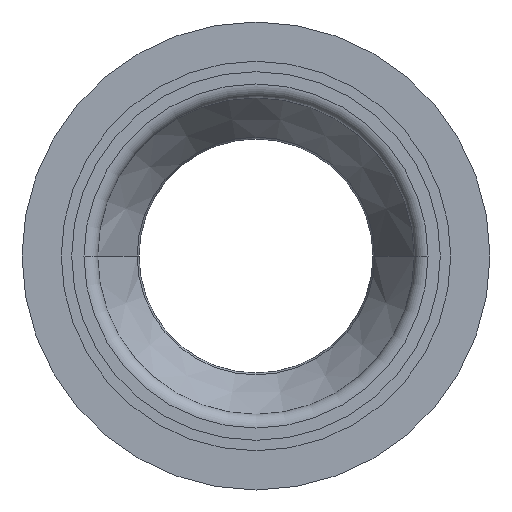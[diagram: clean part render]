
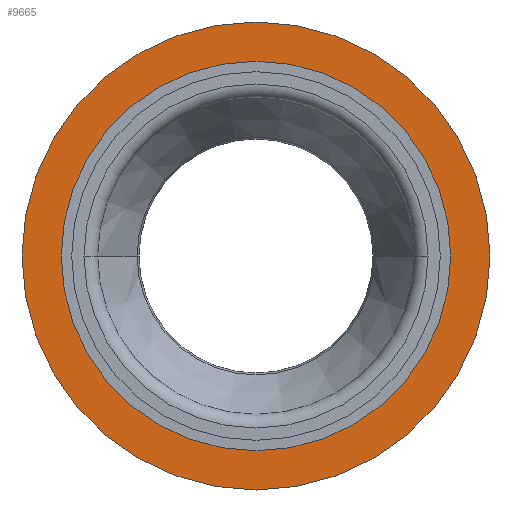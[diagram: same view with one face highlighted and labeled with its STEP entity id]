
A CAD part, front view. The second image highlights one B-rep face of the part: STEP entity #9665.
In plain terms, the highlighted planar face has unit normal (0, -1, 0).
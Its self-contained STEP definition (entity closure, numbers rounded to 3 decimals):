
#478 = CARTESIAN_POINT ( 'NONE',  ( 3888.1, 1628.19, 0. ) ) ;
#527 = DIRECTION ( 'NONE',  ( -1., 0., 0. ) ) ;
#712 = DIRECTION ( 'NONE',  ( 1., 0., 0. ) ) ;
#949 = AXIS2_PLACEMENT_3D ( 'NONE', #1482, #7900, #712 ) ;
#1029 = VERTEX_POINT ( 'NONE', #8621 ) ;
#1275 = EDGE_LOOP ( 'NONE', ( #3294, #9277 ) ) ;
#1323 = CARTESIAN_POINT ( 'NONE',  ( 3888.1, 1628.19, 0. ) ) ;
#1482 = CARTESIAN_POINT ( 'NONE',  ( 3888.1, 1628.19, 0. ) ) ;
#1978 = DIRECTION ( 'NONE',  ( 0., -1., 0. ) ) ;
#2276 = CARTESIAN_POINT ( 'NONE',  ( 3871.1, 1628.19, 0. ) ) ;
#2366 = CIRCLE ( 'NONE', #3563, 17. ) ;
#2877 = DIRECTION ( 'NONE',  ( 0., -1., 0. ) ) ;
#3033 = AXIS2_PLACEMENT_3D ( 'NONE', #5135, #1978, #6742 ) ;
#3294 = ORIENTED_EDGE ( 'NONE', *, *, #4719, .F. ) ;
#3309 = EDGE_CURVE ( 'NONE', #1029, #8644, #2366, .T. ) ;
#3363 = AXIS2_PLACEMENT_3D ( 'NONE', #478, #6793, #9819 ) ;
#3563 = AXIS2_PLACEMENT_3D ( 'NONE', #1323, #2877, #4495 ) ;
#3898 = VERTEX_POINT ( 'NONE', #5272 ) ;
#4495 = DIRECTION ( 'NONE',  ( 1., 0., 0. ) ) ;
#4719 = EDGE_CURVE ( 'NONE', #5693, #3898, #6931, .T. ) ;
#5135 = CARTESIAN_POINT ( 'NONE',  ( 3888.1, 1628.19, 0. ) ) ;
#5197 = CARTESIAN_POINT ( 'NONE',  ( 3901.45, 1628.19, 0. ) ) ;
#5272 = CARTESIAN_POINT ( 'NONE',  ( 3874.75, 1628.19, 0. ) ) ;
#5693 = VERTEX_POINT ( 'NONE', #5197 ) ;
#5841 = CIRCLE ( 'NONE', #3363, 13.35 ) ;
#6001 = ORIENTED_EDGE ( 'NONE', *, *, #3309, .T. ) ;
#6742 = DIRECTION ( 'NONE',  ( 1., 0., 0. ) ) ;
#6775 = EDGE_CURVE ( 'NONE', #8644, #1029, #6860, .T. ) ;
#6793 = DIRECTION ( 'NONE',  ( 0., -1., 0. ) ) ;
#6860 = CIRCLE ( 'NONE', #949, 17. ) ;
#6931 = CIRCLE ( 'NONE', #3033, 13.35 ) ;
#7120 = FACE_BOUND ( 'NONE', #1275, .T. ) ;
#7565 = CARTESIAN_POINT ( 'NONE',  ( 0., 1628.19, 0. ) ) ;
#7656 = PLANE ( 'NONE',  #8641 ) ;
#7900 = DIRECTION ( 'NONE',  ( 0., -1., 0. ) ) ;
#8207 = EDGE_LOOP ( 'NONE', ( #6001, #10234 ) ) ;
#8621 = CARTESIAN_POINT ( 'NONE',  ( 3905.1, 1628.19, 0. ) ) ;
#8641 = AXIS2_PLACEMENT_3D ( 'NONE', #7565, #9240, #527 ) ;
#8644 = VERTEX_POINT ( 'NONE', #2276 ) ;
#9050 = FACE_OUTER_BOUND ( 'NONE', #8207, .T. ) ;
#9240 = DIRECTION ( 'NONE',  ( 0., 1., 0. ) ) ;
#9277 = ORIENTED_EDGE ( 'NONE', *, *, #10183, .F. ) ;
#9665 = ADVANCED_FACE ( 'NONE', ( #7120, #9050 ), #7656, .F. ) ;
#9819 = DIRECTION ( 'NONE',  ( 1., 0., 0. ) ) ;
#10183 = EDGE_CURVE ( 'NONE', #3898, #5693, #5841, .T. ) ;
#10234 = ORIENTED_EDGE ( 'NONE', *, *, #6775, .T. ) ;
